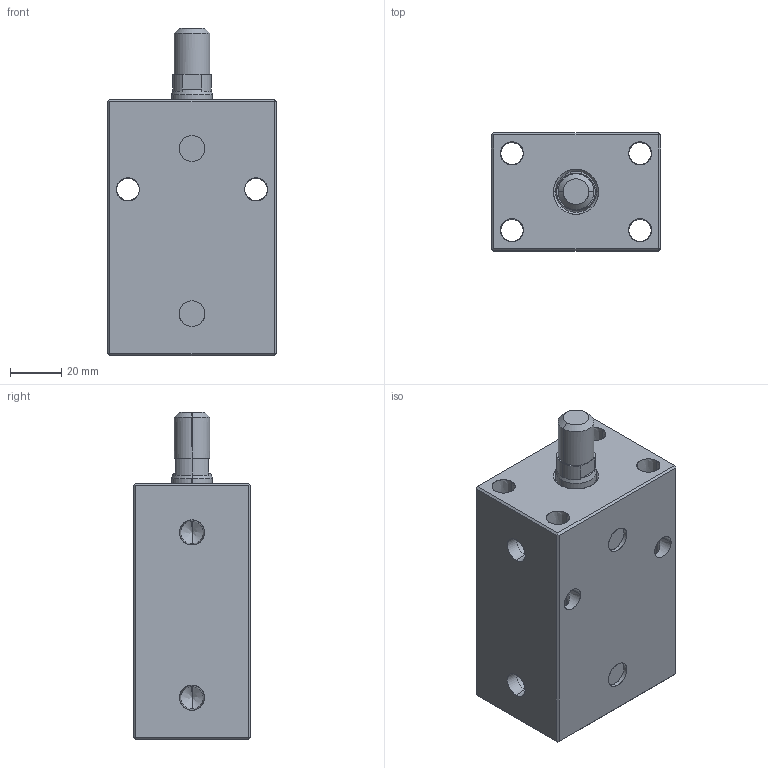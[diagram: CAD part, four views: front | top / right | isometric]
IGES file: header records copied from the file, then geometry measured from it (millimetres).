
Start section: SolidWorks IGES file using analytic representation for surfaces
Global section: file name: E:\ALL-SSVT-BLOCK\IGSMODEL-25-BORE\BC04-25-50-M.IGS; native system: SolidWorks 2019; preprocessor: SolidWorks 2019; author: SSVT; date: 210824.092308; units: millimetre
Bounding box: 66 x 46 x 128 mm (x, y, z)
Surface area: 51260.8 mm2 (no closed solid volume)
Topology: 0 solids, 0 shells, 96 faces, 1705 edges, 1701 vertices
Faces by surface type: revolution 59, bspline 37
